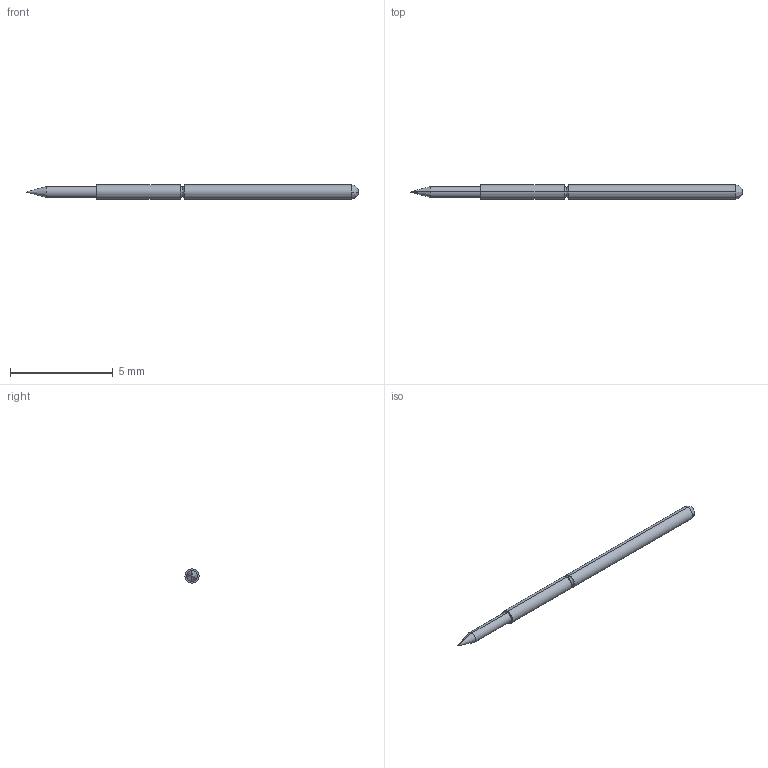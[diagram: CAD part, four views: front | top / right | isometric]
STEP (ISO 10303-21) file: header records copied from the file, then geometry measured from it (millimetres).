
FILE_DESCRIPTION (( 'STEP AP214' ), '1' );
FILE_NAME ('PA1B.STEP', '2021-08-24T13:47:27', ( '' ), ( '' ), 'SwSTEP 2.0', 'SolidWorks 2021', '' );
FILE_SCHEMA (( 'AUTOMOTIVE_DESIGN' ));
Length unit declared in the file: inch
Products named in the file (1): PA1B
Bounding box: 16.13 x 0.69 x 0.69 mm (x, y, z)
Volume: 5.2 mm3; surface area: 32.6 mm2
Topology: 1 solids, 1 shells, 16 faces, 34 edges, 19 vertices
Faces by surface type: bspline 6, cylinder 6, cone 2, plane 2
Entity records: 734 total; most frequent: CARTESIAN_POINT 170, DIRECTION 70, ORIENTED_EDGE 64, EDGE_CURVE 32, AXIS2_PLACEMENT_3D 31, CIRCLE 20, VERTEX_POINT 19, UNCERTAINTY_MEASURE_WITH_UNIT 19
